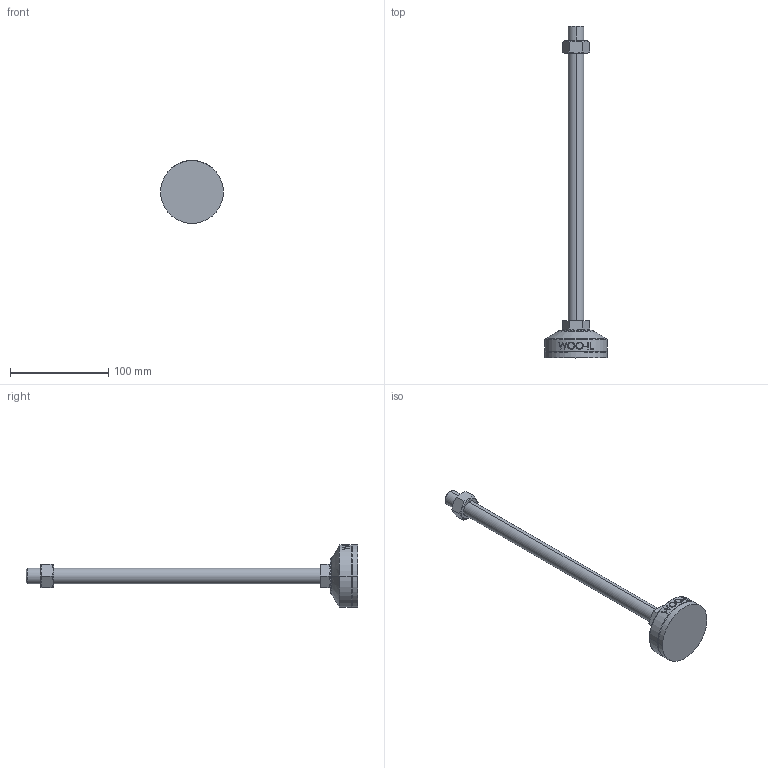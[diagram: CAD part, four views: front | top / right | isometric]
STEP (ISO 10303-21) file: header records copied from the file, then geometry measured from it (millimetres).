
FILE_DESCRIPTION (( 'STEP AP214' ), '1' );
FILE_NAME ('MFZR64-M16-300.step', '2021-03-29T06:56:20', ( '' ), ( '' ), 'SwSTEP 2.0', 'SolidWorks 2019', '' );
FILE_SCHEMA (( 'AUTOMOTIVE_DESIGN' ));
Length unit declared in the file: millimetre
Products named in the file (2): MFZR64-M16-300
Bounding box: 64 x 338 x 64 mm (x, y, z)
Volume: 147442.6 mm3; surface area: 36109.8 mm2
Topology: 4 solids, 4 shells, 103 faces, 235 edges, 150 vertices
Faces by surface type: plane 49, cylinder 18, bspline 16, cone 14, torus 6
Entity records: 4435 total; most frequent: CARTESIAN_POINT 2162, ORIENTED_EDGE 470, DIRECTION 417, EDGE_CURVE 235, AXIS2_PLACEMENT_3D 159, VERTEX_POINT 150, EDGE_LOOP 115, ADVANCED_FACE 103
